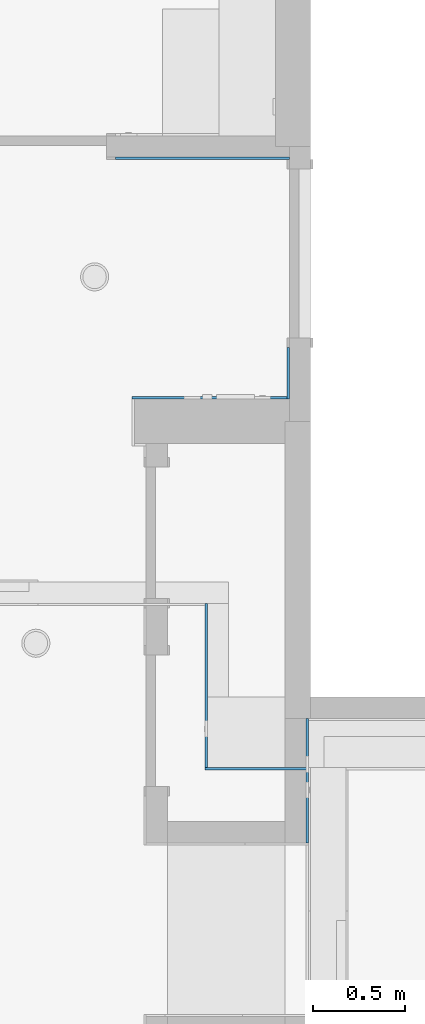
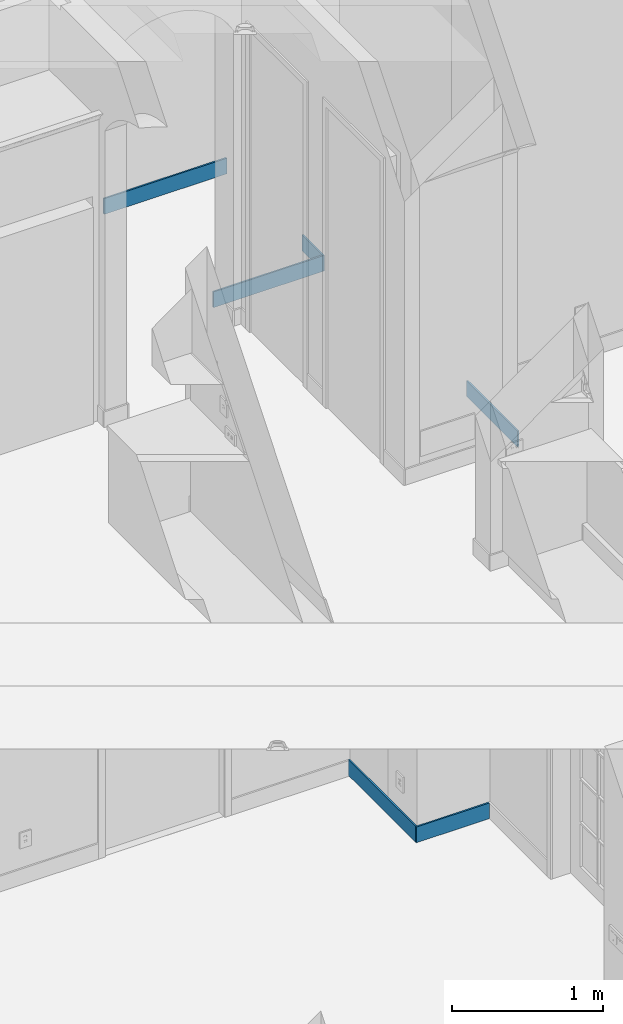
# One storey, part 27 of 81: 6 walls.
"""IFC2X3 building model written with IfcOpenShell, lengths in feet."""

from ifc_helpers import new_model, entity, si_unit, converted_unit, derived_unit, direction, frame, frame_2d, origin, place, context, subcontext, project, spatial, rectangle, extrude, material, layer, layer_set, layer_usage, type_object, element, save


model = new_model("IFC2X3")

# Units and contexts
model_context = context("Model", 3, precision=0.0001, world=origin(), true_north=direction((6.12303176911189e-17, 1.0)))
body_context = subcontext(model_context, "Body", "Model", "MODEL_VIEW")
ifc_project = project(units=[converted_unit("LENGTHUNIT", "FOOT", entity("IfcRatioMeasure", 0.3048), si_unit("LENGTHUNIT", "METRE"), dimensions=[1, 0, 0, 0, 0, 0, 0]), converted_unit("AREAUNIT", "SQUARE FOOT", entity("IfcRatioMeasure", 0.09290304), si_unit("AREAUNIT", "SQUARE_METRE"), dimensions=[2, 0, 0, 0, 0, 0, 0]), converted_unit("VOLUMEUNIT", "CUBIC FOOT", entity("IfcRatioMeasure", 0.028316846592), si_unit("VOLUMEUNIT", "CUBIC_METRE"), dimensions=[3, 0, 0, 0, 0, 0, 0]), converted_unit("PLANEANGLEUNIT", "DEGREE", entity("IfcRatioMeasure", 0.0174532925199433), si_unit("PLANEANGLEUNIT", "RADIAN"), dimensions=[0, 0, 0, 0, 0, 0, 0]), si_unit("MASSUNIT", "GRAM", prefix="KILO"), derived_unit("MASSDENSITYUNIT", [(si_unit("MASSUNIT", "GRAM", prefix="KILO"), 1), (si_unit("LENGTHUNIT", "METRE"), -3)]), derived_unit("MOMENTOFINERTIAUNIT", [(si_unit("LENGTHUNIT", "METRE"), 4)]), si_unit("TIMEUNIT", "SECOND"), si_unit("FREQUENCYUNIT", "HERTZ"), si_unit("THERMODYNAMICTEMPERATUREUNIT", "DEGREE_CELSIUS"), derived_unit("THERMALTRANSMITTANCEUNIT", [(si_unit("MASSUNIT", "GRAM", prefix="KILO"), 1), (si_unit("THERMODYNAMICTEMPERATUREUNIT", "KELVIN"), -1), (si_unit("TIMEUNIT", "SECOND"), -3)]), derived_unit("VOLUMETRICFLOWRATEUNIT", [(si_unit("LENGTHUNIT", "METRE"), 3), (si_unit("TIMEUNIT", "SECOND"), -1)]), si_unit("ELECTRICCURRENTUNIT", "AMPERE"), si_unit("ELECTRICVOLTAGEUNIT", "VOLT"), si_unit("POWERUNIT", "WATT"), si_unit("FORCEUNIT", "NEWTON"), si_unit("ILLUMINANCEUNIT", "LUX"), si_unit("LUMINOUSFLUXUNIT", "LUMEN"), si_unit("LUMINOUSINTENSITYUNIT", "CANDELA"), derived_unit("USERDEFINED", [(si_unit("MASSUNIT", "GRAM", prefix="KILO"), -1), (si_unit("LENGTHUNIT", "METRE"), -2), (si_unit("TIMEUNIT", "SECOND"), 3), (si_unit("LUMINOUSFLUXUNIT", "LUMEN"), 1)]), derived_unit("LINEARVELOCITYUNIT", [(si_unit("LENGTHUNIT", "METRE"), 1), (si_unit("TIMEUNIT", "SECOND"), -1)]), si_unit("PRESSUREUNIT", "PASCAL"), derived_unit("USERDEFINED", [(si_unit("LENGTHUNIT", "METRE"), -2), (si_unit("MASSUNIT", "GRAM", prefix="KILO"), 1), (si_unit("TIMEUNIT", "SECOND"), -2)]), derived_unit("LINEARFORCEUNIT", [(si_unit("MASSUNIT", "GRAM", prefix="KILO"), 1), (si_unit("LENGTHUNIT", "METRE"), 1), (si_unit("TIMEUNIT", "SECOND"), -2), (si_unit("LENGTHUNIT", "METRE"), -1)]), derived_unit("PLANARFORCEUNIT", [(si_unit("MASSUNIT", "GRAM", prefix="KILO"), 1), (si_unit("LENGTHUNIT", "METRE"), 1), (si_unit("TIMEUNIT", "SECOND"), -2), (si_unit("LENGTHUNIT", "METRE"), -2)])], contexts=[model_context])

# Site, building, storey
site_placement = place(None, origin())
site = spatial("IfcSite", under=ifc_project, at=site_placement, Name="Default", CompositionType="ELEMENT")
building_placement = place(site_placement, origin())
building = spatial("IfcBuilding", under=site, at=building_placement, CompositionType="ELEMENT")
storey_placement = place(building_placement, origin())
storey = spatial("IfcBuildingStorey", under=building, at=storey_placement, Name="First floor", CompositionType="ELEMENT", Elevation=0.0)

# Walls
ifc_material = material(Name="Default New Material")
ifc_layer = layer(ifc_material, 0.0416666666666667)
ifc_layer_set = layer_set([ifc_layer], Name="Basic Wall:Wall Border_T1")
ifc_layer_usage_1 = layer_usage(ifc_layer_set, "AXIS2", "POSITIVE", -0.0208333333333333)
wall_type = type_object("IfcWallType", Name="Basic Wall:Wall Border_T1", PredefinedType="STANDARD", material=ifc_layer_set)
wall_1_placement = place(storey_placement, frame((18.5208333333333, 29.7916666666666, 0.0), z_axis=(0.0, 0.0, 1.0), x_axis=(0.0, -1.0, 0.0)))
element("IfcWallStandardCase", 1, at=wall_1_placement, inside=storey, type_object=wall_type, material=ifc_layer_usage_1, Name="Basic Wall:Wall Border_T1", ObjectType="Basic Wall:Wall Border_T1", context=body_context, shape_type="SweptSolid", body=[
    extrude(rectangle(XDim=2.91666666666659, YDim=0.0416666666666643, at=frame_2d((1.45833333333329, 0.0), x_axis=(-1.0, 0.0))), origin(), (0.0, 0.0, 1.0), 0.416666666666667),
])
ifc_layer_usage_2 = layer_usage(ifc_layer_set, "AXIS2", "POSITIVE", -0.0208333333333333)
wall_2_placement = place(storey_placement, frame((18.5, 26.8541666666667, 0.0)))
element("IfcWallStandardCase", 2, at=wall_2_placement, inside=storey, type_object=wall_type, material=ifc_layer_usage_2, Name="Basic Wall:Wall Border_T1", ObjectType="Basic Wall:Wall Border_T1", context=body_context, shape_type="SweptSolid", body=[
    extrude(rectangle(XDim=1.83333333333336, YDim=0.0416666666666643, at=frame_2d((0.91666666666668, 8.32667268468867e-17), x_axis=(-1.0, 0.0))), origin(), (0.0, 0.0, 1.0), 0.416666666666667),
])
ifc_layer_usage_3 = layer_usage(ifc_layer_set, "AXIS2", "NEGATIVE", 0.0208333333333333)
wall_3_placement = place(storey_placement, frame((19.9791666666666, 34.3329881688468, 10.6666666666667), z_axis=(0.0, 0.0, 1.0), x_axis=(0.0, -1.0, 0.0)))
element("IfcWallStandardCase", 3, at=wall_3_placement, inside=storey, type_object=wall_type, material=ifc_layer_usage_3, Name="Basic Wall:Wall Border_T1", ObjectType="Basic Wall:Wall Border_T1", context=body_context, shape_type="SweptSolid", body=[
    extrude(rectangle(XDim=0.916666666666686, YDim=0.0416666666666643, at=frame_2d((0.458333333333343, 4.16333634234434e-17), x_axis=(-1.0, 0.0))), origin(), (0.0, 0.0, 1.0), 0.416666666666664),
])
ifc_layer_usage_4 = layer_usage(ifc_layer_set, "AXIS2", "NEGATIVE", 0.0208333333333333)
wall_4_placement = place(storey_placement, frame((19.9583333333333, 33.4371548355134, 10.6666666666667), z_axis=(0.0, 0.0, 1.0), x_axis=(-1.0, 0.0, 0.0)))
element("IfcWallStandardCase", 4, at=wall_4_placement, inside=storey, type_object=wall_type, material=ifc_layer_usage_4, Name="Basic Wall:Wall Border_T1", ObjectType="Basic Wall:Wall Border_T1", context=body_context, shape_type="SweptSolid", body=[
    extrude(rectangle(XDim=2.74999999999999, YDim=0.0416666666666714, at=frame_2d((1.37499999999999, -1.49880108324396e-15), x_axis=(-1.0, 0.0))), origin(), (0.0, 0.0, 1.0), 0.416666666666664),
])
ifc_layer_usage_5 = layer_usage(ifc_layer_set, "AXIS2", "POSITIVE", -0.0208333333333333)
wall_5_placement = place(storey_placement, frame((16.9166666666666, 37.6871548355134, 10.6666666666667)))
element("IfcWallStandardCase", 5, at=wall_5_placement, inside=storey, type_object=wall_type, material=ifc_layer_usage_5, Name="Basic Wall:Wall Border_T1", ObjectType="Basic Wall:Wall Border_T1", context=body_context, shape_type="SweptSolid", body=[
    extrude(rectangle(XDim=3.08333333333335, YDim=0.0416666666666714, at=frame_2d((1.54166666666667, 0.0), x_axis=(-1.0, 0.0))), origin(), (0.0, 0.0, 1.0), 0.416666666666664),
])
ifc_layer_usage_6 = layer_usage(ifc_layer_set, "AXIS2", "POSITIVE", -0.0208333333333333)
wall_6_placement = place(storey_placement, frame((20.3124999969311, 25.5413215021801, 10.6666666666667), z_axis=(0.0, 0.0, 1.0), x_axis=(0.0, 1.0, 0.0)))
element("IfcWallStandardCase", 6, at=wall_6_placement, inside=storey, type_object=wall_type, material=ifc_layer_usage_6, Name="Basic Wall:Wall Border_T1", ObjectType="Basic Wall:Wall Border_T1", context=body_context, shape_type="SweptSolid", body=[
    extrude(rectangle(XDim=2.20867849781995, YDim=0.0416666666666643, at=frame_2d((1.10433924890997, 0.0), x_axis=(-1.0, 0.0))), origin(), (0.0, 0.0, 1.0), 0.416666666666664),
])

save(model, "model.ifc")
